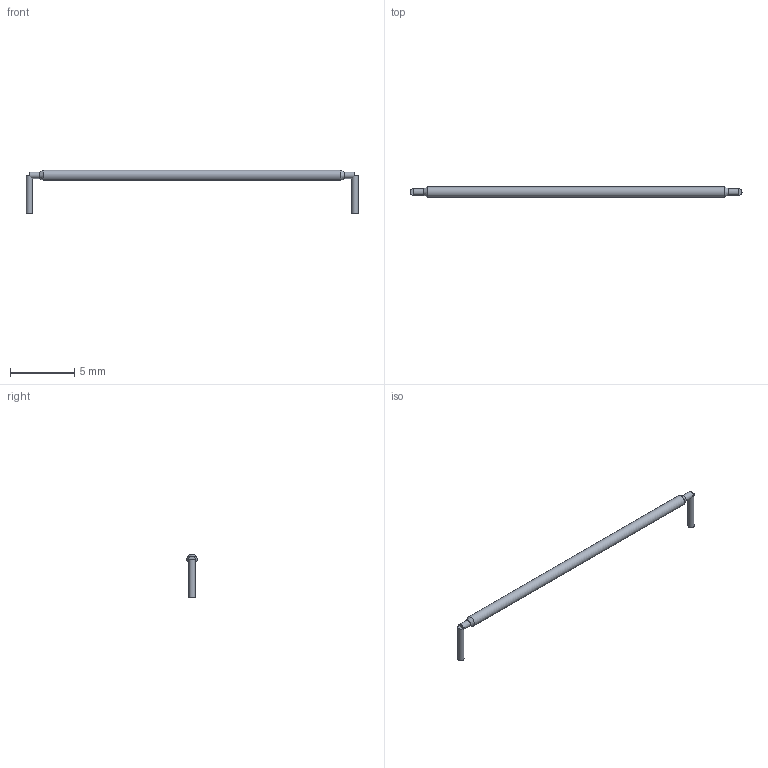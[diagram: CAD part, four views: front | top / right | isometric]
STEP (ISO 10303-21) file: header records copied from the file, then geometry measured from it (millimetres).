
FILE_DESCRIPTION(('FreeCAD Model'),'2;1');
FILE_NAME('Open CASCADE Shape Model','2026-04-07T19:07:43',('FreeCAD'),( 'FreeCAD'),'Open CASCADE STEP processor 7.8','FreeCAD','Unknown');
FILE_SCHEMA(('AUTOMOTIVE_DESIGN { 1 0 10303 214 1 1 1 1 }'));
Length unit declared in the file: millimetre
Products named in the file (1): Open CASCADE STEP translator 7.8 10
Bounding box: 25.9 x 0.8 x 3.4 mm (x, y, z)
Volume: 18 mm3; surface area: 110.6 mm2
Topology: 4 solids, 4 shells, 14 faces, 16 edges, 10 vertices
Faces by surface type: plane 8, cylinder 4, cone 2
Full cylindrical faces by diameter (mm): 0.5 x3, 0.8 x1
Entity records: 287 total; most frequent: DIRECTION 56, CARTESIAN_POINT 41, ORIENTED_EDGE 32, AXIS2_PLACEMENT_3D 25, EDGE_CURVE 16, ADVANCED_FACE 14, FACE_BOUND 14, EDGE_LOOP 14
